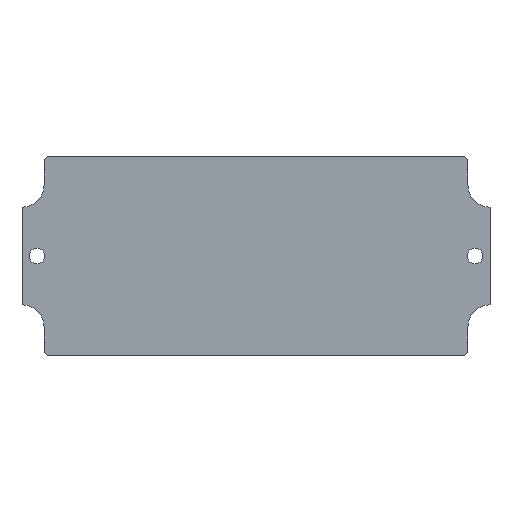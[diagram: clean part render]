
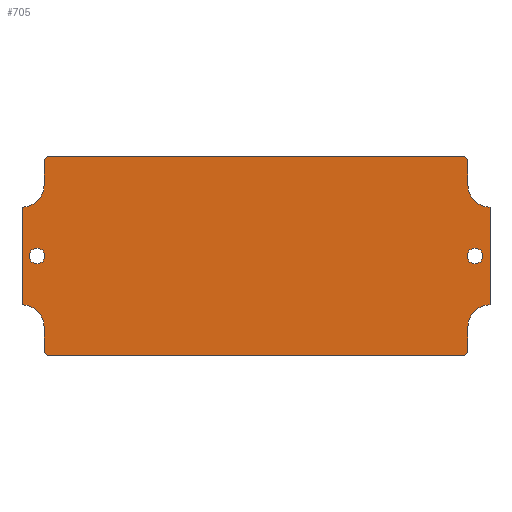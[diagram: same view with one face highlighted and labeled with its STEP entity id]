
A CAD part, top view. The second image highlights one B-rep face of the part: STEP entity #705.
In plain terms, the highlighted planar face has unit normal (0, 0, 1).
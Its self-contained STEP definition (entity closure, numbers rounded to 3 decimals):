
#49=CARTESIAN_POINT('',(109.325,18.216,0.5));
#50=VERTEX_POINT('',#49);
#51=CARTESIAN_POINT('',(110.325,17.216,0.5));
#52=VERTEX_POINT('',#51);
#53=CARTESIAN_POINT('',(109.325,18.216,0.5));
#54=DIRECTION('',(0.707,-0.707,0.0));
#55=VECTOR('',#54,1.414);
#56=LINE('',#53,#55);
#57=EDGE_CURVE('',#50,#52,#56,.T.);
#98=CARTESIAN_POINT('',(-23.175,18.216,0.5));
#99=VERTEX_POINT('',#98);
#106=CARTESIAN_POINT('',(-23.175,18.216,0.5));
#107=DIRECTION('',(1.0,0.0,0.0));
#108=VECTOR('',#107,132.5);
#109=LINE('',#106,#108);
#110=EDGE_CURVE('',#99,#50,#109,.T.);
#266=CARTESIAN_POINT('',(-23.175,-44.784,0.5));
#267=VERTEX_POINT('',#266);
#268=CARTESIAN_POINT('',(-24.175,-43.784,0.5));
#269=VERTEX_POINT('',#268);
#270=CARTESIAN_POINT('',(-23.175,-44.784,0.5));
#271=DIRECTION('',(-0.707,0.707,0.0));
#272=VECTOR('',#271,1.414);
#273=LINE('',#270,#272);
#274=EDGE_CURVE('',#267,#269,#273,.T.);
#299=CARTESIAN_POINT('',(109.325,-44.784,0.5));
#300=VERTEX_POINT('',#299);
#307=CARTESIAN_POINT('',(109.325,-44.784,0.5));
#308=DIRECTION('',(-1.0,0.0,0.0));
#309=VECTOR('',#308,132.5);
#310=LINE('',#307,#309);
#311=EDGE_CURVE('',#300,#267,#310,.T.);
#321=CARTESIAN_POINT('',(110.325,-43.784,0.5));
#322=VERTEX_POINT('',#321);
#323=CARTESIAN_POINT('',(110.325,-43.784,0.5));
#324=DIRECTION('',(-0.707,-0.707,0.0));
#325=VECTOR('',#324,1.414);
#326=LINE('',#323,#325);
#327=EDGE_CURVE('',#322,#300,#326,.T.);
#347=CARTESIAN_POINT('',(110.325,-35.784,0.5));
#348=VERTEX_POINT('',#347);
#355=CARTESIAN_POINT('',(110.325,-35.784,0.5));
#356=DIRECTION('',(0.0,-1.0,0.0));
#357=VECTOR('',#356,8.0);
#358=LINE('',#355,#357);
#359=EDGE_CURVE('',#348,#322,#358,.T.);
#369=CARTESIAN_POINT('',(-24.175,17.216,0.5));
#370=VERTEX_POINT('',#369);
#371=CARTESIAN_POINT('',(-24.175,17.216,0.5));
#372=DIRECTION('',(0.707,0.707,0.0));
#373=VECTOR('',#372,1.414);
#374=LINE('',#371,#373);
#375=EDGE_CURVE('',#370,#99,#374,.T.);
#417=CARTESIAN_POINT('',(-23.925,-13.284,0.5));
#418=VERTEX_POINT('',#417);
#419=CARTESIAN_POINT('',(-26.425,-13.284,0.5));
#420=DIRECTION('',(0.0,0.0,-1.0));
#421=DIRECTION('',(1.0,0.0,0.0));
#422=AXIS2_PLACEMENT_3D('',#419,#420,#421);
#423=CIRCLE('',#422,2.5);
#424=EDGE_CURVE('',#418,#418,#423,.T.);
#458=CARTESIAN_POINT('',(115.075,-13.284,0.5));
#459=VERTEX_POINT('',#458);
#460=CARTESIAN_POINT('',(112.575,-13.284,0.5));
#461=DIRECTION('',(0.0,0.0,-1.0));
#462=DIRECTION('',(1.0,0.0,0.0));
#463=AXIS2_PLACEMENT_3D('',#460,#461,#462);
#464=CIRCLE('',#463,2.5);
#465=EDGE_CURVE('',#459,#459,#464,.T.);
#475=CARTESIAN_POINT('',(110.325,9.216,0.5));
#476=VERTEX_POINT('',#475);
#477=CARTESIAN_POINT('',(117.325,2.216,0.5));
#478=VERTEX_POINT('',#477);
#479=CARTESIAN_POINT('',(117.325,9.216,0.5));
#480=DIRECTION('',(0.0,0.0,1.0));
#481=DIRECTION('',(1.0,0.0,0.0));
#482=AXIS2_PLACEMENT_3D('',#479,#480,#481);
#483=CIRCLE('',#482,7.);
#484=EDGE_CURVE('',#476,#478,#483,.T.);
#507=CARTESIAN_POINT('',(117.325,-28.784,0.5));
#508=VERTEX_POINT('',#507);
#509=CARTESIAN_POINT('',(117.325,2.216,0.5));
#510=DIRECTION('',(0.0,-1.0,0.0));
#511=VECTOR('',#510,31.);
#512=LINE('',#509,#511);
#513=EDGE_CURVE('',#478,#508,#512,.T.);
#531=CARTESIAN_POINT('',(117.325,-35.784,0.5));
#532=DIRECTION('',(0.0,0.0,1.0));
#533=DIRECTION('',(0.0,-1.0,0.0));
#534=AXIS2_PLACEMENT_3D('',#531,#532,#533);
#535=CIRCLE('',#534,7.);
#536=EDGE_CURVE('',#508,#348,#535,.T.);
#550=CARTESIAN_POINT('',(-24.175,-35.784,0.5));
#551=VERTEX_POINT('',#550);
#552=CARTESIAN_POINT('',(-24.175,-43.784,0.5));
#553=DIRECTION('',(0.0,1.0,0.0));
#554=VECTOR('',#553,8.);
#555=LINE('',#552,#554);
#556=EDGE_CURVE('',#269,#551,#555,.T.);
#573=CARTESIAN_POINT('',(-31.175,-28.784,0.5));
#574=VERTEX_POINT('',#573);
#575=CARTESIAN_POINT('',(-31.175,-35.784,0.5));
#576=DIRECTION('',(0.0,0.0,1.0));
#577=DIRECTION('',(-1.0,0.0,0.0));
#578=AXIS2_PLACEMENT_3D('',#575,#576,#577);
#579=CIRCLE('',#578,7.);
#580=EDGE_CURVE('',#551,#574,#579,.T.);
#598=CARTESIAN_POINT('',(-31.175,2.216,0.5));
#599=VERTEX_POINT('',#598);
#600=CARTESIAN_POINT('',(-31.175,-28.784,0.5));
#601=DIRECTION('',(0.0,1.0,0.0));
#602=VECTOR('',#601,31.0);
#603=LINE('',#600,#602);
#604=EDGE_CURVE('',#574,#599,#603,.T.);
#622=CARTESIAN_POINT('',(-24.175,9.216,0.5));
#623=VERTEX_POINT('',#622);
#624=CARTESIAN_POINT('',(-31.175,9.216,0.5));
#625=DIRECTION('',(0.0,0.0,1.0));
#626=DIRECTION('',(0.0,1.0,0.0));
#627=AXIS2_PLACEMENT_3D('',#624,#625,#626);
#628=CIRCLE('',#627,7.);
#629=EDGE_CURVE('',#599,#623,#628,.T.);
#650=CARTESIAN_POINT('',(-24.175,9.216,0.5));
#651=DIRECTION('',(0.0,1.0,0.0));
#652=VECTOR('',#651,8.0);
#653=LINE('',#650,#652);
#654=EDGE_CURVE('',#623,#370,#653,.T.);
#665=CARTESIAN_POINT('',(110.325,17.216,0.5));
#666=DIRECTION('',(0.0,-1.0,0.0));
#667=VECTOR('',#666,8.);
#668=LINE('',#665,#667);
#669=EDGE_CURVE('',#52,#476,#668,.T.);
#676=CARTESIAN_POINT('',(43.075,-13.284,0.5));
#677=DIRECTION('',(0.0,0.0,1.0));
#678=DIRECTION('',(1.0,0.0,0.0));
#679=AXIS2_PLACEMENT_3D('',#676,#677,#678);
#680=PLANE('',#679);
#681=ORIENTED_EDGE('',*,*,#57,.F.);
#682=ORIENTED_EDGE('',*,*,#110,.F.);
#683=ORIENTED_EDGE('',*,*,#375,.F.);
#684=ORIENTED_EDGE('',*,*,#654,.F.);
#685=ORIENTED_EDGE('',*,*,#629,.F.);
#686=ORIENTED_EDGE('',*,*,#604,.F.);
#687=ORIENTED_EDGE('',*,*,#580,.F.);
#688=ORIENTED_EDGE('',*,*,#556,.F.);
#689=ORIENTED_EDGE('',*,*,#274,.F.);
#690=ORIENTED_EDGE('',*,*,#311,.F.);
#691=ORIENTED_EDGE('',*,*,#327,.F.);
#692=ORIENTED_EDGE('',*,*,#359,.F.);
#693=ORIENTED_EDGE('',*,*,#536,.F.);
#694=ORIENTED_EDGE('',*,*,#513,.F.);
#695=ORIENTED_EDGE('',*,*,#484,.F.);
#696=ORIENTED_EDGE('',*,*,#669,.F.);
#697=EDGE_LOOP('',(#681,#682,#683,#684,#685,#686,#687,#688,#689,#690,#691,#692,#693,#694,#695,#696));
#698=FACE_OUTER_BOUND('',#697,.T.);
#699=ORIENTED_EDGE('',*,*,#424,.T.);
#700=EDGE_LOOP('',(#699));
#701=FACE_BOUND('',#700,.T.);
#702=ORIENTED_EDGE('',*,*,#465,.T.);
#703=EDGE_LOOP('',(#702));
#704=FACE_BOUND('',#703,.T.);
#705=ADVANCED_FACE('',(#698,#701,#704),#680,.T.);
